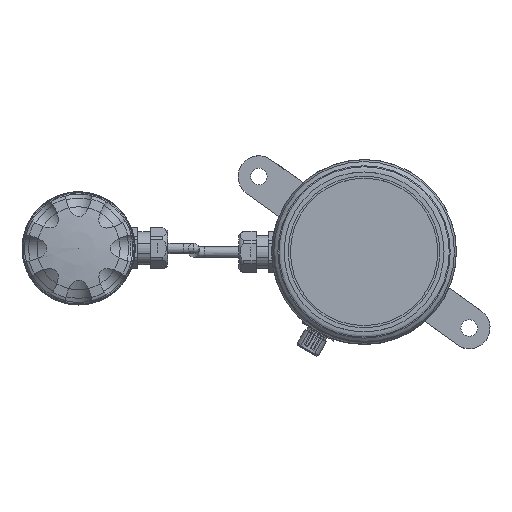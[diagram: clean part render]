
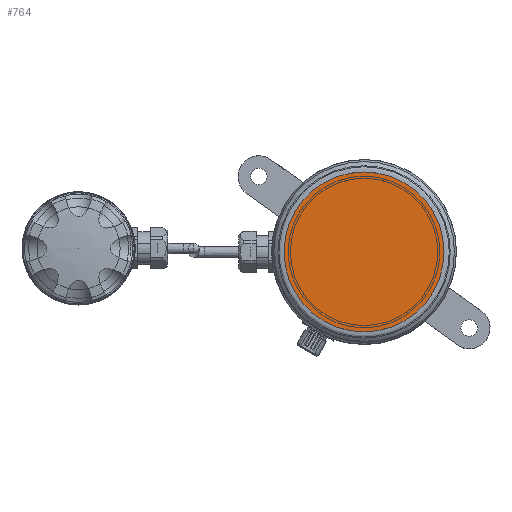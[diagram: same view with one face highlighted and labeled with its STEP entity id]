
A CAD part, top view. The second image highlights one B-rep face of the part: STEP entity #764.
In plain terms, the highlighted planar face has unit normal (0, 0, 1).
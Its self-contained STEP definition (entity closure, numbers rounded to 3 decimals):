
#764 = ADVANCED_FACE( '', ( #1733 ), #1734, .T. );
#1733 = FACE_OUTER_BOUND( '', #2907, .T. );
#1734 = PLANE( '', #2908 );
#2907 = EDGE_LOOP( '', ( #4849 ) );
#2908 = AXIS2_PLACEMENT_3D( '', #4850, #4851, #4852 );
#4849 = ORIENTED_EDGE( '', *, *, #5985, .T. );
#4850 = CARTESIAN_POINT( '', ( 137.48, 0., -942.262 ) );
#4851 = DIRECTION( '', ( 0., 0., 1. ) );
#4852 = DIRECTION( '', ( 0., -1., 0. ) );
#5985 = EDGE_CURVE( '', #7123, #7123, #7124, .T. );
#7123 = VERTEX_POINT( '', #9843 );
#7124 = CIRCLE( '', #9844, 38.5 );
#9843 = CARTESIAN_POINT( '', ( 137.48, -38.5, -942.262 ) );
#9844 = AXIS2_PLACEMENT_3D( '', #11118, #11119, #11120 );
#11118 = CARTESIAN_POINT( '', ( 137.48, 0., -942.262 ) );
#11119 = DIRECTION( '', ( 0., 0., 1. ) );
#11120 = DIRECTION( '', ( 0., -1., 0. ) );
